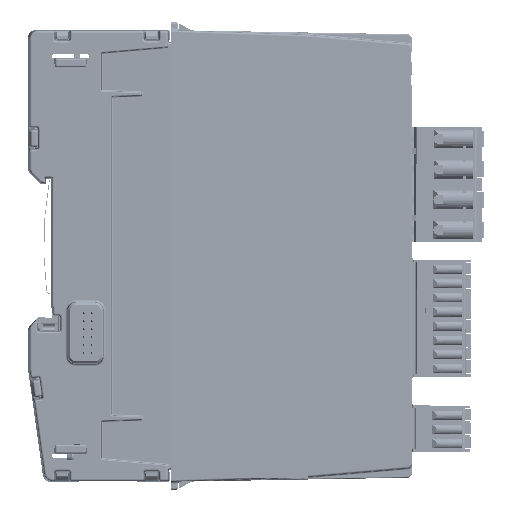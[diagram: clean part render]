
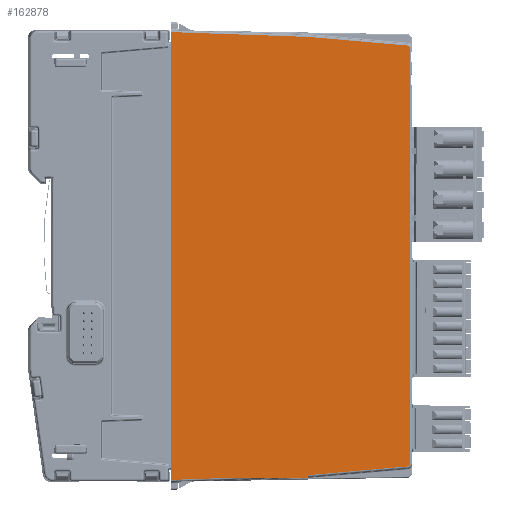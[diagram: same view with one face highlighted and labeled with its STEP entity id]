
A CAD part, left-side view. The second image highlights one B-rep face of the part: STEP entity #162878.
In plain terms, the highlighted planar face has unit normal (-1, -0.018, 0).
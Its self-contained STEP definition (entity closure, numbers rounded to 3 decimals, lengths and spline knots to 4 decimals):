
#15672=FACE_OUTER_BOUND('',#24726,.T.);
#24726=EDGE_LOOP('',(#137301,#137302,#137303,#137304,#137305,#137306,#137307,
#137308,#137309,#137310,#137311,#137312,#137313));
#40605=LINE('',#278087,#56974);
#40618=LINE('',#278159,#56987);
#40675=LINE('',#278387,#57044);
#40987=LINE('',#280177,#57356);
#40988=LINE('',#280179,#57357);
#40989=LINE('',#280183,#57358);
#40990=LINE('',#280187,#57359);
#40991=LINE('',#280189,#57360);
#40992=LINE('',#280191,#57361);
#40993=LINE('',#280193,#57362);
#40994=LINE('',#280194,#57363);
#56974=VECTOR('',#214280,0.3937);
#56987=VECTOR('',#214321,0.3937);
#57044=VECTOR('',#214516,39.3701);
#57356=VECTOR('',#215206,39.3701);
#57357=VECTOR('',#215207,39.3701);
#57358=VECTOR('',#215210,39.3701);
#57359=VECTOR('',#215213,39.3701);
#57360=VECTOR('',#215214,39.3701);
#57361=VECTOR('',#215215,39.3701);
#57362=VECTOR('',#215216,39.3701);
#57363=VECTOR('',#215217,39.3701);
#59726=ELLIPSE('',#175346,0.0315,0.0315);
#59727=ELLIPSE('',#175347,0.0315,0.0315);
#72752=VERTEX_POINT('',#278083);
#72754=VERTEX_POINT('',#278086);
#72776=VERTEX_POINT('',#278154);
#72834=VERTEX_POINT('',#278386);
#73191=VERTEX_POINT('',#280176);
#73192=VERTEX_POINT('',#280178);
#73193=VERTEX_POINT('',#280180);
#73194=VERTEX_POINT('',#280182);
#73195=VERTEX_POINT('',#280184);
#73196=VERTEX_POINT('',#280186);
#73197=VERTEX_POINT('',#280188);
#73198=VERTEX_POINT('',#280190);
#73199=VERTEX_POINT('',#280192);
#94130=EDGE_CURVE('',#72752,#72754,#40605,.T.);
#94157=EDGE_CURVE('',#72754,#72776,#40618,.T.);
#94250=EDGE_CURVE('',#72834,#72776,#40675,.T.);
#94762=EDGE_CURVE('',#72752,#73191,#40987,.T.);
#94763=EDGE_CURVE('',#73191,#73192,#40988,.T.);
#94764=EDGE_CURVE('',#73192,#73193,#59726,.T.);
#94765=EDGE_CURVE('',#73193,#73194,#40989,.T.);
#94766=EDGE_CURVE('',#73194,#73195,#59727,.T.);
#94767=EDGE_CURVE('',#73195,#73196,#40990,.T.);
#94768=EDGE_CURVE('',#73196,#73197,#40991,.T.);
#94769=EDGE_CURVE('',#73197,#73198,#40992,.T.);
#94770=EDGE_CURVE('',#73199,#73198,#40993,.T.);
#94771=EDGE_CURVE('',#73199,#72834,#40994,.T.);
#137301=ORIENTED_EDGE('',*,*,#94762,.T.);
#137302=ORIENTED_EDGE('',*,*,#94763,.T.);
#137303=ORIENTED_EDGE('',*,*,#94764,.T.);
#137304=ORIENTED_EDGE('',*,*,#94765,.T.);
#137305=ORIENTED_EDGE('',*,*,#94766,.T.);
#137306=ORIENTED_EDGE('',*,*,#94767,.T.);
#137307=ORIENTED_EDGE('',*,*,#94768,.T.);
#137308=ORIENTED_EDGE('',*,*,#94769,.T.);
#137309=ORIENTED_EDGE('',*,*,#94770,.F.);
#137310=ORIENTED_EDGE('',*,*,#94771,.T.);
#137311=ORIENTED_EDGE('',*,*,#94250,.T.);
#137312=ORIENTED_EDGE('',*,*,#94157,.F.);
#137313=ORIENTED_EDGE('',*,*,#94130,.F.);
#146484=PLANE('',#175345);
#162878=ADVANCED_FACE('',(#15672),#146484,.T.);
#175345=AXIS2_PLACEMENT_3D('',#280175,#215204,#215205);
#175346=AXIS2_PLACEMENT_3D('',#280181,#215208,#215209);
#175347=AXIS2_PLACEMENT_3D('',#280185,#215211,#215212);
#214280=DIRECTION('',(0.,0.,-1.));
#214321=DIRECTION('',(-0.017,1.,0.));
#214516=DIRECTION('',(0.017,-0.999,0.035));
#215204=DIRECTION('center_axis',(-1.,-0.017,
0.));
#215205=DIRECTION('ref_axis',(-0.017,1.,0.));
#215206=DIRECTION('',(0.017,-0.999,0.035));
#215207=DIRECTION('',(0.017,-0.996,0.087));
#215208=DIRECTION('center_axis',(-1.,-0.017,
0.));
#215209=DIRECTION('ref_axis',(0.017,-1.,0.));
#215210=DIRECTION('',(0.,0.,1.));
#215211=DIRECTION('center_axis',(-1.,-0.017,
0.));
#215212=DIRECTION('ref_axis',(0.017,-1.,0.));
#215213=DIRECTION('',(-0.017,0.996,0.087));
#215214=DIRECTION('',(-0.017,0.999,0.035));
#215215=DIRECTION('',(0.,0.,-1.));
#215216=DIRECTION('',(0.,0.,1.));
#215217=DIRECTION('',(0.,0.,-1.));
#278083=CARTESIAN_POINT('',(0.0005,-2.2096,-4.1958));
#278086=CARTESIAN_POINT('',(0.0005,-2.2096,-4.2206));
#278087=CARTESIAN_POINT('',(0.0005,-2.2096,-3.155));
#278154=CARTESIAN_POINT('',(-0.0119,-1.4997,-4.2206));
#278159=CARTESIAN_POINT('',(-0.0131,-1.4351,-4.2206));
#278386=CARTESIAN_POINT('',(-0.0227,-0.8827,-4.2421));
#278387=CARTESIAN_POINT('',(-0.0282,-0.5654,-4.2532));
#280175=CARTESIAN_POINT('Origin',(-0.0296,-0.489,
-2.0669));
#280176=CARTESIAN_POINT('',(0.0007,-2.2205,-4.1954));
#280177=CARTESIAN_POINT('',(-0.0282,-0.5654,-4.2532));
#280178=CARTESIAN_POINT('',(0.0174,-3.1772,-4.1117));
#280179=CARTESIAN_POINT('',(-0.0261,-0.6869,-4.3296));
#280180=CARTESIAN_POINT('',(0.0179,-3.2059,-4.0803));
#280181=CARTESIAN_POINT('Origin',(0.0173,-3.1744,
-4.0803));
#280182=CARTESIAN_POINT('',(0.0179,-3.2059,-0.0535));
#280183=CARTESIAN_POINT('',(0.0179,-3.2059,-0.0535));
#280184=CARTESIAN_POINT('',(0.0174,-3.1772,-0.0221));
#280185=CARTESIAN_POINT('Origin',(0.0173,-3.1744,
-0.0535));
#280186=CARTESIAN_POINT('',(0.0007,-2.2205,0.0616));
#280187=CARTESIAN_POINT('',(-0.0261,-0.6869,0.1957));
#280188=CARTESIAN_POINT('',(-0.0227,-0.8827,0.1083));
#280189=CARTESIAN_POINT('',(-0.0282,-0.5654,0.1194));
#280190=CARTESIAN_POINT('',(-0.0227,-0.8827,-0.0312));
#280191=CARTESIAN_POINT('',(-0.0227,-0.8827,0.128));
#280192=CARTESIAN_POINT('',(-0.0227,-0.8827,-4.1027));
#280193=CARTESIAN_POINT('',(-0.0227,-0.8827,-7.5932));
#280194=CARTESIAN_POINT('',(-0.0227,-0.8827,0.128));
